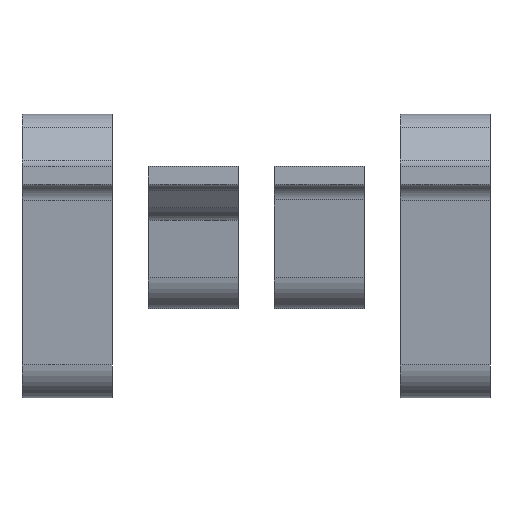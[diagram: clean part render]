
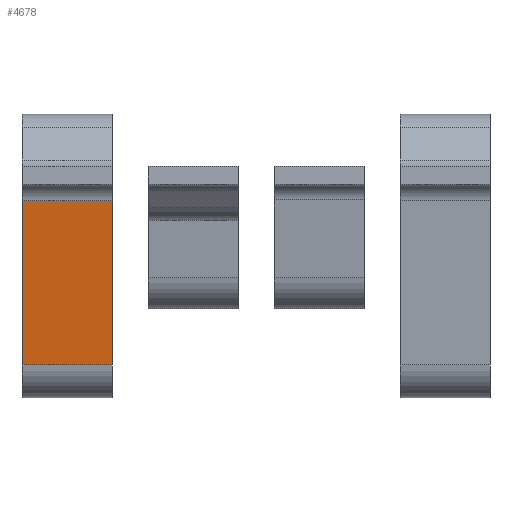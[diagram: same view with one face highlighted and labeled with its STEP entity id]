
A CAD part, front view. The second image highlights one B-rep face of the part: STEP entity #4678.
In plain terms, the highlighted planar face has unit normal (0, -0.996, -0.087).
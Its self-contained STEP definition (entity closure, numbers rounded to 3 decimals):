
#3997=DIRECTION('',(-1.,0.,0.));
#3998=VECTOR('',#3997,50.);
#3999=CARTESIAN_POINT('',(50.,262.105,-9.128));
#4000=LINE('',#3999,#3998);
#4023=DIRECTION('',(0.,-0.087,0.996));
#4024=VECTOR('',#4023,91.463);
#4025=CARTESIAN_POINT('',(50.,270.076,-100.243));
#4026=LINE('',#4025,#4024);
#4037=DIRECTION('',(0.,-0.087,0.996));
#4038=VECTOR('',#4037,91.463);
#4039=CARTESIAN_POINT('',(0.,270.076,-100.243));
#4040=LINE('',#4039,#4038);
#4045=DIRECTION('',(1.,0.,0.));
#4046=VECTOR('',#4045,50.);
#4047=CARTESIAN_POINT('',(0.,270.076,-100.243));
#4048=LINE('',#4047,#4046);
#4311=CARTESIAN_POINT('',(0.,270.076,-100.243));
#4312=VERTEX_POINT('',#4311);
#4321=CARTESIAN_POINT('',(50.,270.076,-100.243));
#4322=VERTEX_POINT('',#4321);
#4347=CARTESIAN_POINT('',(50.,262.105,-9.128));
#4348=CARTESIAN_POINT('',(0.,262.105,-9.128));
#4349=VERTEX_POINT('',#4347);
#4350=VERTEX_POINT('',#4348);
#4665=CARTESIAN_POINT('',(50.,270.076,-100.243));
#4666=DIRECTION('',(0.,0.996,0.087));
#4667=DIRECTION('',(0.,-0.087,0.996));
#4668=AXIS2_PLACEMENT_3D('',#4665,#4666,#4667);
#4669=PLANE('',#4668);
#4670=ORIENTED_EDGE('',*,*,#4621,.F.);
#4671=ORIENTED_EDGE('',*,*,#4652,.F.);
#4673=ORIENTED_EDGE('',*,*,#4672,.F.);
#4675=ORIENTED_EDGE('',*,*,#4674,.T.);
#4676=EDGE_LOOP('',(#4670,#4671,#4673,#4675));
#4677=FACE_OUTER_BOUND('',#4676,.F.);
#4621=EDGE_CURVE('',#4349,#4350,#4000,.T.);
#4652=EDGE_CURVE('',#4322,#4349,#4026,.T.);
#4672=EDGE_CURVE('',#4312,#4322,#4048,.T.);
#4674=EDGE_CURVE('',#4312,#4350,#4040,.T.);
#4678=ADVANCED_FACE('',(#4677),#4669,.F.);
